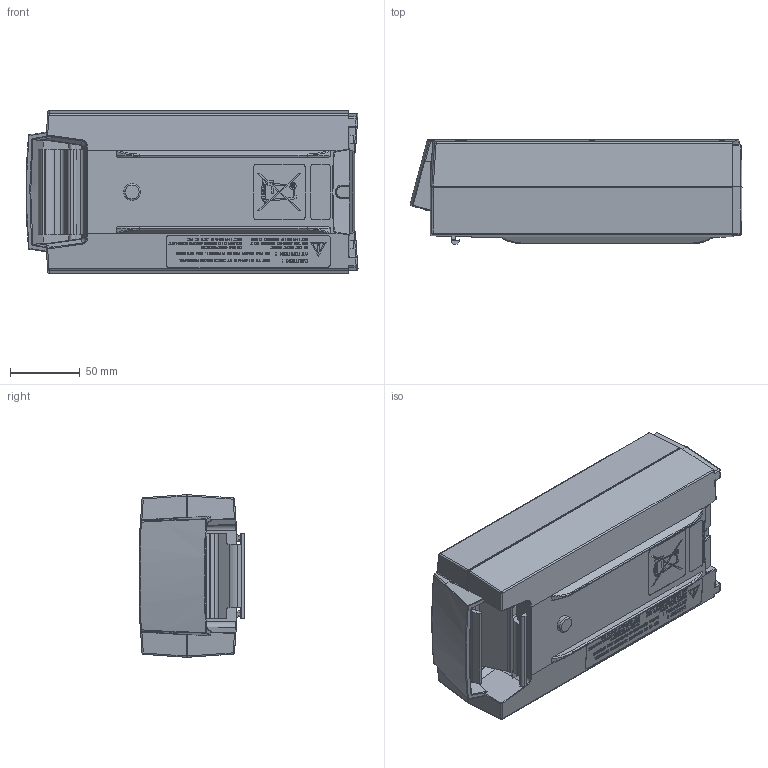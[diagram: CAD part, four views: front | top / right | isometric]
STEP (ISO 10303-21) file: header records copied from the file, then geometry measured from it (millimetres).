
FILE_DESCRIPTION((''),'2;1');
FILE_NAME('940246','2015-06-11T',('TI'),(''),'CREO PARAMETRIC BY PTC INC, 2014500','CREO PARAMETRIC BY PTC INC, 2014500','');
FILE_SCHEMA(('CONFIG_CONTROL_DESIGN'));
Length unit declared in the file: millimetre
Products named in the file (1): 940246
Bounding box: 238.77 x 75.37 x 116.93 mm (x, y, z)
Volume: 1656978.2 mm3; surface area: 128567 mm2
Topology: 1 solids, 3 shells, 6047 faces, 17033 edges, 11332 vertices
Faces by surface type: plane 5590, cylinder 309, torus 54, bspline 42, cone 32, sphere 14, extrusion 6
Entity records: 196896 total; most frequent: CARTESIAN_POINT 40539, ORIENTED_EDGE 34038, DIRECTION 29294, EDGE_CURVE 17019, VECTOR 15976, LINE 15970, VERTEX_POINT 11333, AXIS2_PLACEMENT_3D 6659
